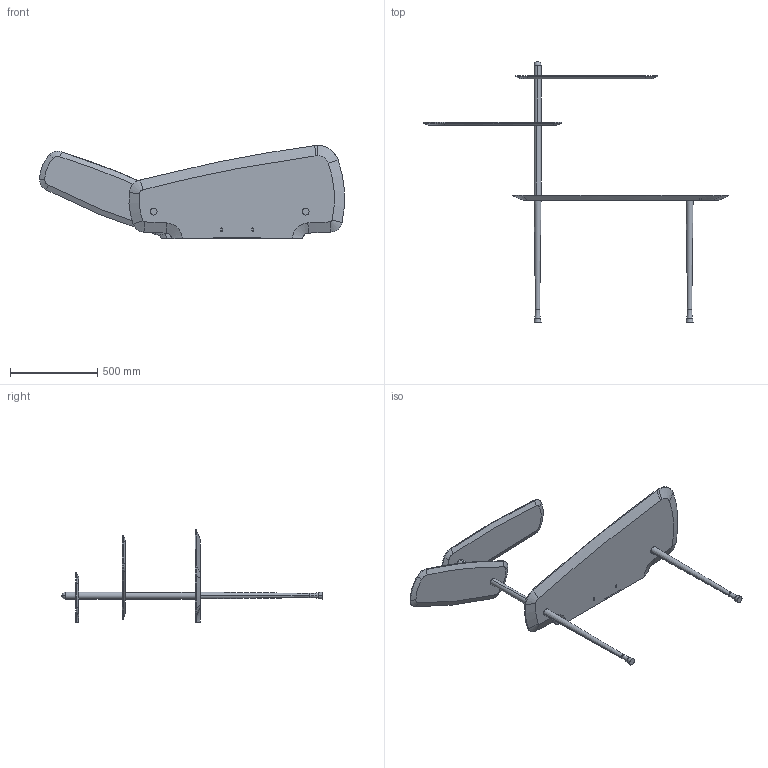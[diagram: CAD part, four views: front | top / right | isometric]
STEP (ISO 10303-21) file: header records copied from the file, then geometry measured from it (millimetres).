
FILE_DESCRIPTION (( 'STEP AP214' ), '1' );
FILE_NAME ('ESCRITORIO CHAPADO.STEP', '2020-10-09T11:04:35', ( '' ), ( '' ), 'SwSTEP 2.0', 'SolidWorks 2016', '' );
FILE_SCHEMA (( 'AUTOMOTIVE_DESIGN' ));
Length unit declared in the file: millimetre
Products named in the file (8): BASE_70; TRAMO_40; TRAMO_25; BALDA_S_AIR_MOVIL_DM; BALDA_E_DM; TERMINAL; BALDA_S_FIX_FRONTAL_DM; ESCRITORIO CHAPADO
Assembly tree (8 placements, depth 2):
  ESCRITORIO CHAPADO
    BALDA_E_DM
    BALDA_S_AIR_MOVIL_DM
    BALDA_S_FIX_FRONTAL_DM
    BASE_70  x2
    TERMINAL
    TRAMO_40
    TRAMO_25
Bounding box: 1750.4 x 1496 x 534.25 mm (x, y, z)
Volume: 22584376.1 mm3; surface area: 2208915.1 mm2
Topology: 8 solids, 8 shells, 165 faces, 368 edges, 224 vertices
Faces by surface type: cylinder 61, cone 44, plane 38, bspline 12, torus 8, sphere 2
Entity records: 6816 total; most frequent: CARTESIAN_POINT 2233, DIRECTION 759, ORIENTED_EDGE 676, EDGE_CURVE 338, AXIS2_PLACEMENT_3D 314, VERTEX_POINT 210, EDGE_LOOP 170, CIRCLE 163
